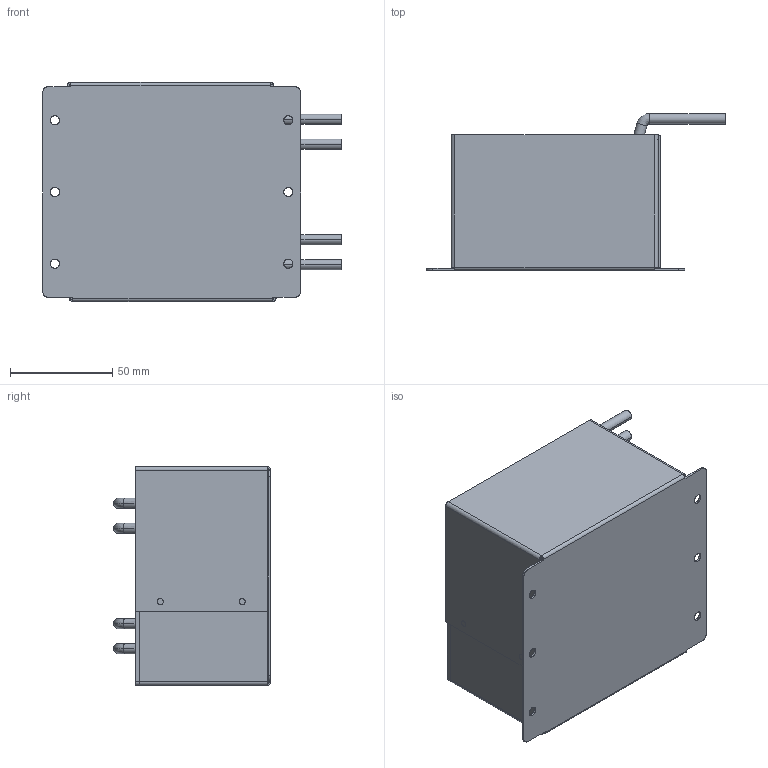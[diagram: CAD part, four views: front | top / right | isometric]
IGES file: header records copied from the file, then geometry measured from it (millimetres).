
Start section: SolidWorks IGES file using analytic representation for surfaces
Global section: file name: 25H\\10.106.230.1\r&d file\05_COMP\02_Mechanical\10_Others\PV_RT 81\网络用3D模型\灌封模型\S-4KW-P-CB-DCL\S-4KW_P_CB-DCL 总装.IGS; native system: SolidWorks 2009; preprocessor: SolidWorks 2009; author: 钱雅婧,,1; organization: 1; date: 120508.113548; units: millimetre
Bounding box: 145.9 x 76.5 x 107 mm (x, y, z)
Surface area: 133047.2 mm2 (no closed solid volume)
Topology: 0 solids, 0 shells, 128 faces, 960 edges, 960 vertices
Faces by surface type: bspline 72, revolution 56
